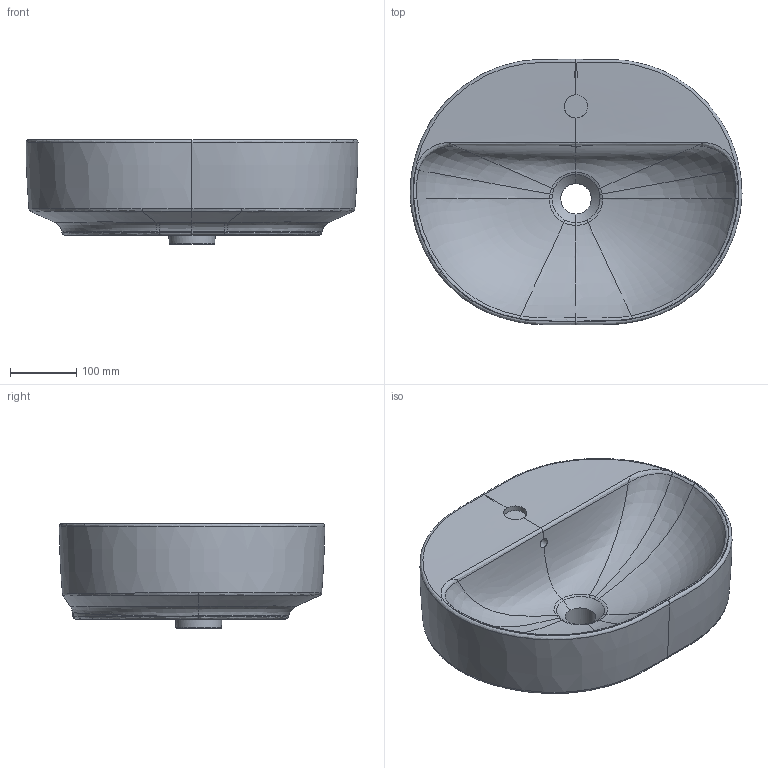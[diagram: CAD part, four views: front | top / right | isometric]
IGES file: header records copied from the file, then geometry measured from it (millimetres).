
Global section: file name: 500775; native system: Autodesk Inventor 2018; preprocessor: unknown; author: JANAN; date: 20200227.111102; units: millimetre
Bounding box: 500.49 x 400 x 158 mm (x, y, z)
Volume: 14430172.3 mm3; surface area: 557354.8 mm2
Topology: 1 solids, 1 shells, 113 faces, 268 edges, 155 vertices
Faces by surface type: bspline 113
